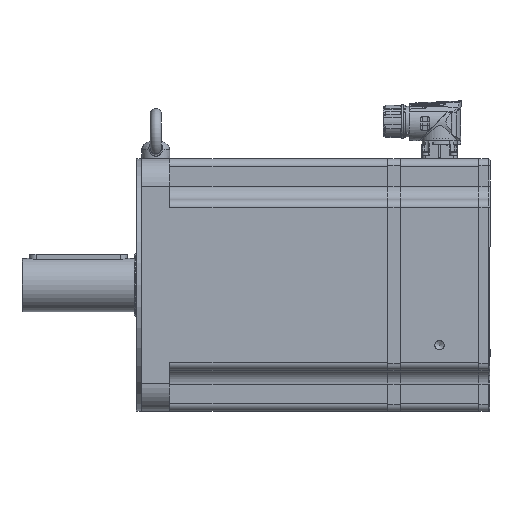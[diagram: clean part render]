
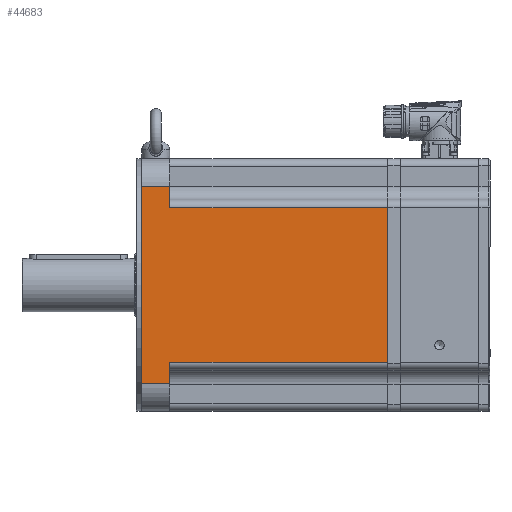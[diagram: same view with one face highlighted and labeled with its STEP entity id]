
A CAD part, left-side view. The second image highlights one B-rep face of the part: STEP entity #44683.
In plain terms, the highlighted planar face has unit normal (-1, 0, 0) as drawn and (1, 0, 0) by its records, which use the part's own axes.
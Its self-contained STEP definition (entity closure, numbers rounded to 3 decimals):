
#1173=PLANE('',#47826);
#4854=LINE('',#71530,#6752);
#4868=LINE('',#71617,#6766);
#4875=LINE('',#71668,#6773);
#4883=LINE('',#71692,#6781);
#4884=LINE('',#71693,#6782);
#4885=LINE('',#71695,#6783);
#4886=LINE('',#71697,#6784);
#4887=LINE('',#71698,#6785);
#6752=VECTOR('',#55180,1000.);
#6766=VECTOR('',#55264,1000.);
#6773=VECTOR('',#55317,1000.);
#6781=VECTOR('',#55341,1000.);
#6782=VECTOR('',#55342,1000.);
#6783=VECTOR('',#55343,1000.);
#6784=VECTOR('',#55344,1000.);
#6785=VECTOR('',#55345,1000.);
#13994=ORIENTED_EDGE('',*,*,#19450,.F.);
#13995=ORIENTED_EDGE('',*,*,#19522,.T.);
#13996=ORIENTED_EDGE('',*,*,#19488,.F.);
#13997=ORIENTED_EDGE('',*,*,#19523,.T.);
#13998=ORIENTED_EDGE('',*,*,#19524,.F.);
#13999=ORIENTED_EDGE('',*,*,#19525,.T.);
#14000=ORIENTED_EDGE('',*,*,#19510,.F.);
#14001=ORIENTED_EDGE('',*,*,#19526,.T.);
#19450=EDGE_CURVE('',#22849,#22850,#4854,.T.);
#19488=EDGE_CURVE('',#22887,#22888,#4868,.T.);
#19510=EDGE_CURVE('',#22909,#22910,#4875,.T.);
#19522=EDGE_CURVE('',#22849,#22888,#4883,.F.);
#19523=EDGE_CURVE('',#22887,#22917,#4884,.T.);
#19524=EDGE_CURVE('',#22918,#22917,#4885,.T.);
#19525=EDGE_CURVE('',#22918,#22910,#4886,.F.);
#19526=EDGE_CURVE('',#22909,#22850,#4887,.T.);
#22849=VERTEX_POINT('',#71529);
#22850=VERTEX_POINT('',#71531);
#22887=VERTEX_POINT('',#71616);
#22888=VERTEX_POINT('',#71618);
#22909=VERTEX_POINT('',#71669);
#22910=VERTEX_POINT('',#71670);
#22917=VERTEX_POINT('',#71694);
#22918=VERTEX_POINT('',#71696);
#26523=EDGE_LOOP('',(#13994,#13995,#13996,#13997,#13998,#13999,#14000,#14001));
#29156=FACE_BOUND('',#26523,.T.);
#44683=ADVANCED_FACE('',(#29156),#1173,.T.);
#47826=AXIS2_PLACEMENT_3D('',#71691,#55339,#55340);
#55180=DIRECTION('',(0.,0.,-1.));
#55264=DIRECTION('',(0.,0.,-1.));
#55317=DIRECTION('',(0.,0.,-1.));
#55339=DIRECTION('',(1.,0.,0.));
#55340=DIRECTION('',(0.,1.,0.));
#55341=DIRECTION('',(0.,1.,0.));
#55342=DIRECTION('',(0.,-1.,0.));
#55343=DIRECTION('',(0.,0.,1.));
#55344=DIRECTION('',(0.,-1.,0.));
#55345=DIRECTION('',(0.,1.,0.));
#71529=CARTESIAN_POINT('',(90.,176.8,55.2));
#71530=CARTESIAN_POINT('',(90.,176.8,-90.));
#71531=CARTESIAN_POINT('',(90.,176.8,-55.2));
#71616=CARTESIAN_POINT('',(90.,21.3,70.));
#71617=CARTESIAN_POINT('',(90.,21.3,-90.));
#71618=CARTESIAN_POINT('',(90.,21.3,55.2));
#71668=CARTESIAN_POINT('',(90.,21.3,-90.));
#71669=CARTESIAN_POINT('',(90.,21.3,-55.2));
#71670=CARTESIAN_POINT('',(90.,21.3,-70.));
#71691=CARTESIAN_POINT('',(90.,491.763,-90.));
#71692=CARTESIAN_POINT('',(90.,491.763,55.2));
#71693=CARTESIAN_POINT('',(90.,491.763,70.));
#71694=CARTESIAN_POINT('',(90.,1.3,70.));
#71695=CARTESIAN_POINT('',(90.,1.3,-90.));
#71696=CARTESIAN_POINT('',(90.,1.3,-70.));
#71697=CARTESIAN_POINT('',(90.,491.763,-70.));
#71698=CARTESIAN_POINT('',(90.,491.763,-55.2));
